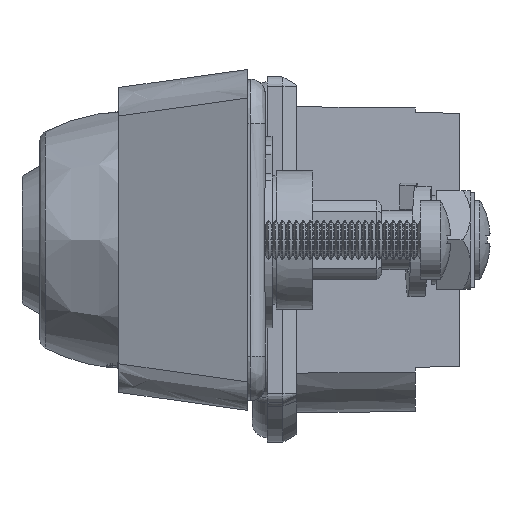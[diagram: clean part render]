
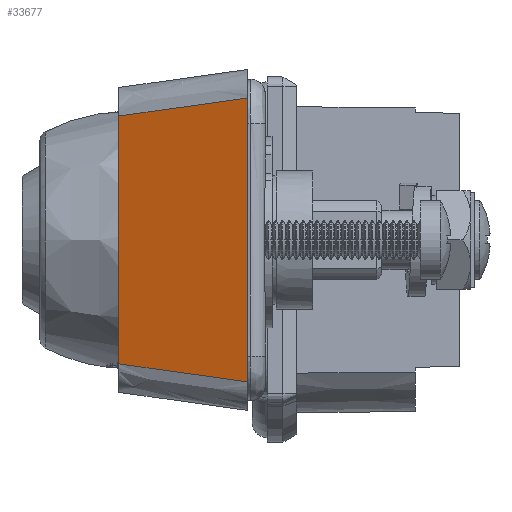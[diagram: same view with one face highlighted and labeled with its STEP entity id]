
A CAD part, left-side view. The second image highlights one B-rep face of the part: STEP entity #33677.
In plain terms, the highlighted planar face has unit normal (-0.94, 0.342, 0) as drawn and (0.94, -0.342, 0) by its records, which use the part's own axes.
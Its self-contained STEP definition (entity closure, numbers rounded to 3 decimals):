
#917 = VERTEX_POINT ( 'NONE', #80640 ) ;
#3051 = DIRECTION ( 'NONE',  ( 0.342, 0.94, 0. ) ) ;
#6613 = ORIENTED_EDGE ( 'NONE', *, *, #42994, .T. ) ;
#8543 = ORIENTED_EDGE ( 'NONE', *, *, #44902, .T. ) ;
#10251 = CARTESIAN_POINT ( 'NONE',  ( 80.25, 6.75, 14.365 ) ) ;
#10571 = CARTESIAN_POINT ( 'NONE',  ( 78.673, 2.417, -13.756 ) ) ;
#10848 = CARTESIAN_POINT ( 'NONE',  ( 80.25, 6.75, -14.365 ) ) ;
#16725 = VECTOR ( 'NONE', #69769, 1000. ) ;
#17044 = CARTESIAN_POINT ( 'NONE',  ( 80.25, 6.75, 14.365 ) ) ;
#17598 = CARTESIAN_POINT ( 'NONE',  ( 77.096, -1.917, -13.147 ) ) ;
#19935 = AXIS2_PLACEMENT_3D ( 'NONE', #62919, #43057, #3051 ) ;
#20640 = ORIENTED_EDGE ( 'NONE', *, *, #45683, .F. ) ;
#22423 = LINE ( 'NONE', #25176, #75718 ) ;
#23786 = CARTESIAN_POINT ( 'NONE',  ( 77.096, -1.917, 13.147 ) ) ;
#25176 = CARTESIAN_POINT ( 'NONE',  ( 75.518, -6.25, 15.588 ) ) ;
#29470 = CARTESIAN_POINT ( 'NONE',  ( 80.25, 6.75, 17.94 ) ) ;
#33677 = ADVANCED_FACE ( 'NONE', ( #81659 ), #36061, .T. ) ;
#34704 = VERTEX_POINT ( 'NONE', #78373 ) ;
#35821 = ORIENTED_EDGE ( 'NONE', *, *, #45298, .F. ) ;
#36061 = PLANE ( 'NONE',  #19935 ) ;
#36728 = B_SPLINE_CURVE_WITH_KNOTS ( 'NONE', 3,
 ( #10848, #10571, #17598, #64332 ),
 .UNSPECIFIED., .F., .F.,
 ( 4, 4 ),
 ( 0., 1.026 ),
 .UNSPECIFIED. ) ;
#42994 = EDGE_CURVE ( 'NONE', #80738, #917, #85433, .T. ) ;
#43057 = DIRECTION ( 'NONE',  ( 0.94, -0.342, 0. ) ) ;
#44902 = EDGE_CURVE ( 'NONE', #917, #34704, #22423, .T. ) ;
#45298 = EDGE_CURVE ( 'NONE', #80738, #74665, #70018, .T. ) ;
#45683 = EDGE_CURVE ( 'NONE', #74665, #34704, #36728, .T. ) ;
#57043 = CARTESIAN_POINT ( 'NONE',  ( 78.673, 2.417, 13.756 ) ) ;
#62919 = CARTESIAN_POINT ( 'NONE',  ( 75.546, -6.174, 14.939 ) ) ;
#64332 = CARTESIAN_POINT ( 'NONE',  ( 75.518, -6.25, -12.538 ) ) ;
#69769 = DIRECTION ( 'NONE',  ( 0., 0., -1. ) ) ;
#70018 = LINE ( 'NONE', #29470, #16725 ) ;
#70474 = CARTESIAN_POINT ( 'NONE',  ( 75.518, -6.25, 12.538 ) ) ;
#70692 = EDGE_LOOP ( 'NONE', ( #8543, #20640, #35821, #6613 ) ) ;
#74137 = CARTESIAN_POINT ( 'NONE',  ( 80.25, 6.75, -14.365 ) ) ;
#74665 = VERTEX_POINT ( 'NONE', #74137 ) ;
#75718 = VECTOR ( 'NONE', #84997, 1000. ) ;
#78373 = CARTESIAN_POINT ( 'NONE',  ( 75.518, -6.25, -12.538 ) ) ;
#80640 = CARTESIAN_POINT ( 'NONE',  ( 75.518, -6.25, 12.538 ) ) ;
#80738 = VERTEX_POINT ( 'NONE', #10251 ) ;
#81659 = FACE_OUTER_BOUND ( 'NONE', #70692, .T. ) ;
#84997 = DIRECTION ( 'NONE',  ( 0., 0., -1. ) ) ;
#85433 = B_SPLINE_CURVE_WITH_KNOTS ( 'NONE', 3,
 ( #17044, #57043, #23786, #70474 ),
 .UNSPECIFIED., .F., .F.,
 ( 4, 4 ),
 ( 0., 1.026 ),
 .UNSPECIFIED. ) ;
